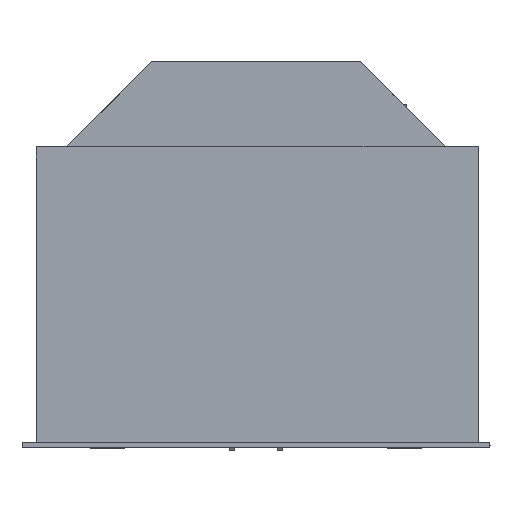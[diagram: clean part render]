
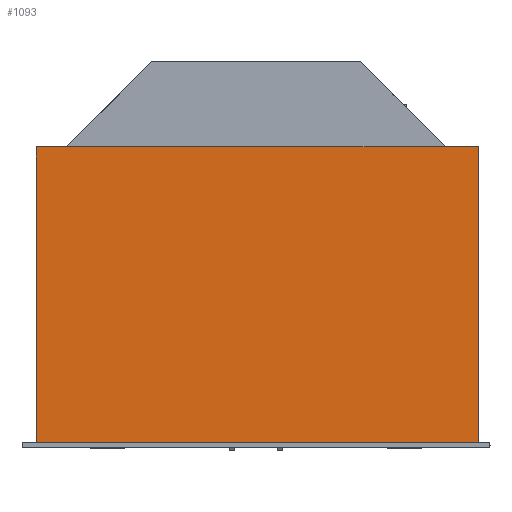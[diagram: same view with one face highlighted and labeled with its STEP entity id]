
A CAD part, left-side view. The second image highlights one B-rep face of the part: STEP entity #1093.
In plain terms, the highlighted free-form (B-spline) face has degree [1, 1] with [2, 2] control points.
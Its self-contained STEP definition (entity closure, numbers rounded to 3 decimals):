
#1093=ADVANCED_FACE('',(#1491),#5073,.T.);
#1491=FACE_OUTER_BOUND('',#1891,.T.);
#1891=EDGE_LOOP('',(#2556,#2557,#2558,#2559));
#2556=ORIENTED_EDGE('',*,*,#3919,.T.);
#2557=ORIENTED_EDGE('',*,*,#3970,.F.);
#2558=ORIENTED_EDGE('',*,*,#3968,.F.);
#2559=ORIENTED_EDGE('',*,*,#3971,.T.);
#3919=EDGE_CURVE('',#4662,#4663,#5236,.T.);
#3968=EDGE_CURVE('',#4694,#4695,#5285,.T.);
#3970=EDGE_CURVE('',#4695,#4663,#5287,.T.);
#3971=EDGE_CURVE('',#4694,#4662,#5288,.T.);
#4662=VERTEX_POINT('',#7044);
#4663=VERTEX_POINT('',#7045);
#4694=VERTEX_POINT('',#7076);
#4695=VERTEX_POINT('',#7077);
#5073=B_SPLINE_SURFACE_WITH_KNOTS('',1,1,((#7028,#7029),(#7030,#7031)),.UNSPECIFIED.,
.F.,.F.,.F.,(2,2),(2,2),(0.,0.882),(0.,1.),.UNSPECIFIED.);
#5236=B_SPLINE_CURVE_WITH_KNOTS('',1,(#6746,#6747),.UNSPECIFIED.,.F.,.F.,
(2,2),(0.,1.),.UNSPECIFIED.);
#5285=B_SPLINE_CURVE_WITH_KNOTS('',1,(#6860,#6861),.UNSPECIFIED.,.F.,.F.,
(2,2),(0.,1.),.UNSPECIFIED.);
#5287=B_SPLINE_CURVE_WITH_KNOTS('',1,(#6864,#6865),.UNSPECIFIED.,.F.,.F.,
(2,2),(0.,0.882),.UNSPECIFIED.);
#5288=B_SPLINE_CURVE_WITH_KNOTS('',1,(#6866,#6867),.UNSPECIFIED.,.F.,.F.,
(2,2),(0.,0.882),.UNSPECIFIED.);
#6746=CARTESIAN_POINT('',(19.745,-331.367,447.825));
#6747=CARTESIAN_POINT('',(19.745,327.65,447.825));
#6860=CARTESIAN_POINT('',(19.745,-331.367,7.042));
#6861=CARTESIAN_POINT('',(19.745,327.65,7.042));
#6864=CARTESIAN_POINT('',(19.745,327.65,7.042));
#6865=CARTESIAN_POINT('',(19.745,327.65,447.825));
#6866=CARTESIAN_POINT('',(19.745,-331.367,7.042));
#6867=CARTESIAN_POINT('',(19.745,-331.367,447.825));
#7028=CARTESIAN_POINT('',(19.745,-331.367,7.042));
#7029=CARTESIAN_POINT('',(19.745,327.65,7.042));
#7030=CARTESIAN_POINT('',(19.745,-331.367,447.825));
#7031=CARTESIAN_POINT('',(19.745,327.65,447.825));
#7044=CARTESIAN_POINT('',(19.745,-331.367,447.825));
#7045=CARTESIAN_POINT('',(19.745,327.65,447.825));
#7076=CARTESIAN_POINT('',(19.745,-331.367,7.042));
#7077=CARTESIAN_POINT('',(19.745,327.65,7.042));
